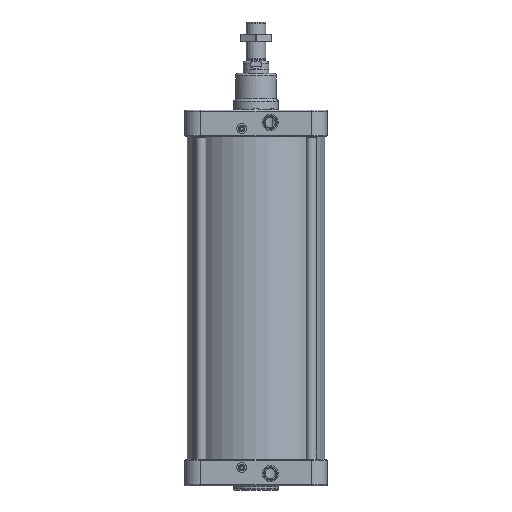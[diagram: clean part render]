
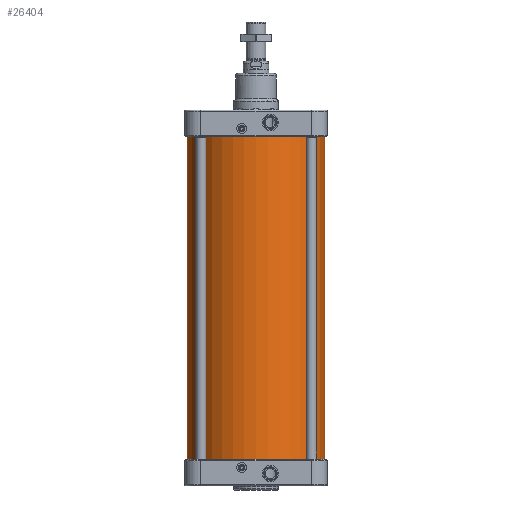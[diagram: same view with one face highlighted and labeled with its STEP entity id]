
A CAD part, front view. The second image highlights one B-rep face of the part: STEP entity #26404.
In plain terms, the highlighted cylindrical face has radius 168 mm (diameter 336 mm), a full revolution.
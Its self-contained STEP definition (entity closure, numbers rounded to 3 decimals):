
#2804=CIRCLE('',#29645,168.);
#2805=CIRCLE('',#29647,168.);
#3478=FACE_BOUND('',#7098,.T.);
#5147=FACE_OUTER_BOUND('',#7097,.T.);
#7097=EDGE_LOOP('',(#22547));
#7098=EDGE_LOOP('',(#22548));
#11979=VERTEX_POINT('',#64759);
#11980=VERTEX_POINT('',#64762);
#15511=EDGE_CURVE('',#11979,#11979,#2804,.T.);
#15512=EDGE_CURVE('',#11980,#11980,#2805,.T.);
#22547=ORIENTED_EDGE('',*,*,#15511,.T.);
#22548=ORIENTED_EDGE('',*,*,#15512,.T.);
#23070=CYLINDRICAL_SURFACE('',#29646,168.);
#26404=ADVANCED_FACE('',(#5147,#3478),#23070,.T.);
#29645=AXIS2_PLACEMENT_3D('',#64760,#36878,#36879);
#29646=AXIS2_PLACEMENT_3D('',#64761,#36880,#36881);
#29647=AXIS2_PLACEMENT_3D('',#64763,#36882,#36883);
#36878=DIRECTION('center_axis',(0.,0.,1.));
#36879=DIRECTION('ref_axis',(-1.,0.,0.));
#36880=DIRECTION('center_axis',(0.,0.,1.));
#36881=DIRECTION('ref_axis',(-1.,0.,0.));
#36882=DIRECTION('center_axis',(0.,0.,-1.));
#36883=DIRECTION('ref_axis',(-1.,0.,0.));
#64759=CARTESIAN_POINT('',(168.,0.,-395.));
#64760=CARTESIAN_POINT('Origin',(0.,0.,-395.));
#64761=CARTESIAN_POINT('Origin',(0.,0.,0.));
#64762=CARTESIAN_POINT('',(168.,0.,395.));
#64763=CARTESIAN_POINT('Origin',(0.,0.,395.));
